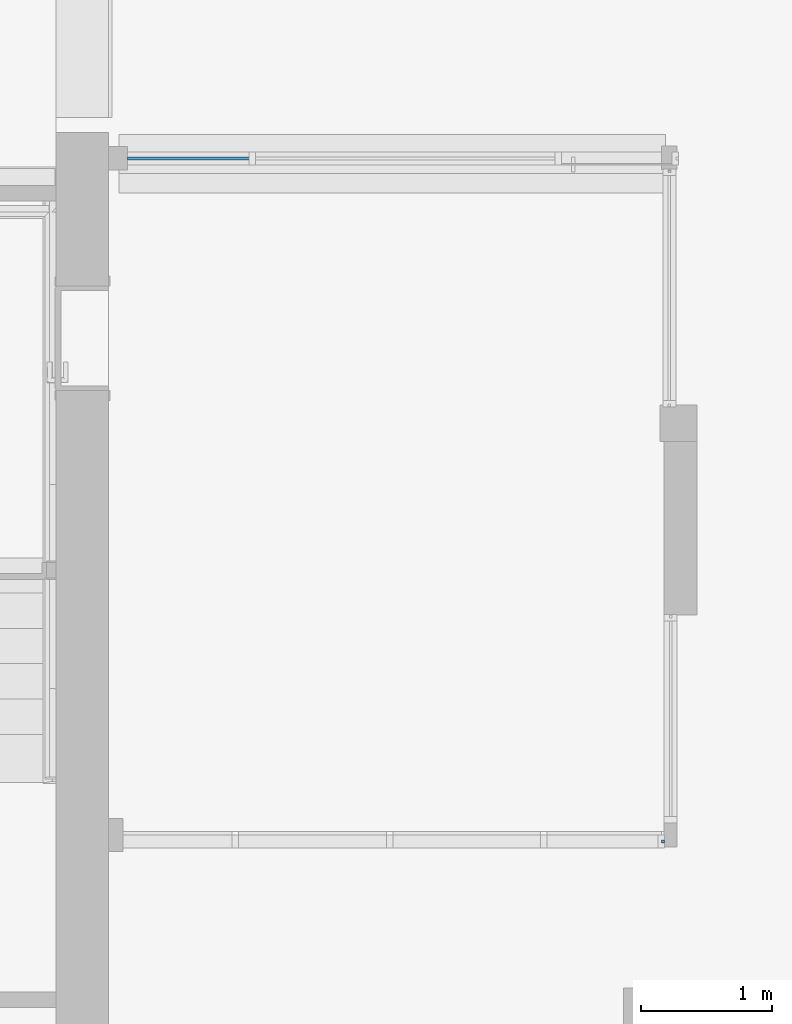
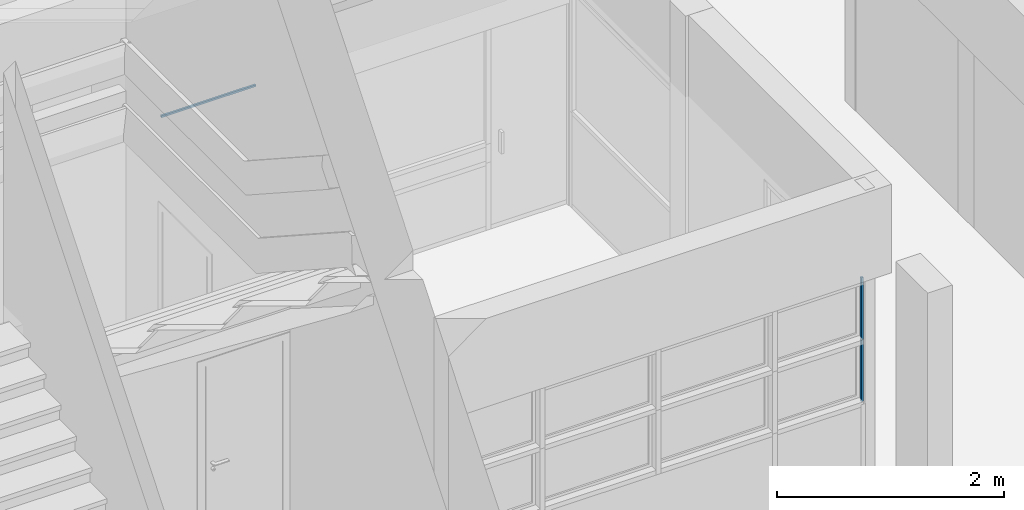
# One storey, part 47 of 117: 3 plates, 2 elements without a shape of their own.
"""IFC4 building model written with IfcOpenShell, lengths in metres."""

import ifcopenshell
import ifcopenshell.guid

model = None  # the IFC model being written
_history = None  # IfcOwnerHistory: only IFC2X3 demands one
_inside = {}  # id of a spatial element -> (the spatial element, [elements in it])
_under = {}  # id of a project, library or spatial element -> (it, [spatial elements below it])
_declared = {}  # id of a project -> (the project, [libraries it declares])
_typed = {}  # id of a type object -> (the type object, [elements of that type])
_made_of = {}  # id of a material, layer set ... -> (it, [elements and type objects made of it])


def new_model(schema):
    """Start an empty IFC model of exactly this schema.

    Asked for "IFC4X3", IfcOpenShell would pick the latest addendum, in which some entities
    have other attributes; the version numbers below select the first issue.
    IFC2X3 requires an IfcOwnerHistory on every rooted entity: one is made here for all.
    """
    global model, _history
    if schema == "IFC4X3":
        model = ifcopenshell.file(schema_version=(4, 3, 0, 0))
    else:
        model = ifcopenshell.file(schema=schema)
    _inside.clear()
    _under.clear()
    _declared.clear()
    _typed.clear()
    _made_of.clear()
    _history = None
    if model.schema == "IFC2X3":
        org = make("IfcOrganization", Name="unknown")
        user = make(
            "IfcPersonAndOrganization",
            ThePerson=make("IfcPerson", FamilyName="unknown"),
            TheOrganization=org,
        )
        app = make(
            "IfcApplication",
            ApplicationDeveloper=org,
            Version="unknown",
            ApplicationFullName="unknown",
            ApplicationIdentifier="unknown",
        )
        _history = make(
            "IfcOwnerHistory",
            OwningUser=user,
            OwningApplication=app,
            ChangeAction="ADDED",
            CreationDate=0,
        )
    return model


def make(cls, **values):
    """One entity of the class cls with the attributes given. An attribute that is None is left unset."""
    return model.create_entity(
        cls, **{name: value for name, value in values.items() if value is not None}
    )


def entity(cls, *values):
    """Any entity or typed value of the class cls, its attributes in the order of the schema. None: left unset."""
    e = model.create_entity(cls)
    for i, value in enumerate(values):
        if value is not None:
            e[i] = value
    return e


def rooted(cls, **values):
    """An entity with a GlobalId (a new one), such as an element, a storey or a relation."""
    return make(cls, GlobalId=ifcopenshell.guid.new(), OwnerHistory=_history, **values)


def si_unit(unit_type, name, prefix=None):
    """IfcSIUnit, for example si_unit("LENGTHUNIT", "METRE", prefix="MILLI")."""
    return make("IfcSIUnit", UnitType=unit_type, Prefix=prefix, Name=name)


def converted_unit(unit_type, name, factor, base, dimensions=None, offset=None):
    """IfcConversionBasedUnit, such as the inch: factor (a typed value) times the base unit."""
    return make(
        "IfcConversionBasedUnit"
        if offset is None
        else "IfcConversionBasedUnitWithOffset",
        ConversionOffset=offset,
        Dimensions=None
        if dimensions is None
        else entity("IfcDimensionalExponents", *dimensions),
        UnitType=unit_type,
        Name=name,
        ConversionFactor=make(
            "IfcMeasureWithUnit", ValueComponent=factor, UnitComponent=base
        ),
    )


def derived_unit(unit_type, elements):
    """IfcDerivedUnit: a product of units, each with its exponent."""
    return make(
        "IfcDerivedUnit",
        Elements=[
            make("IfcDerivedUnitElement", Unit=unit, Exponent=power)
            for unit, power in elements
        ],
        UnitType=unit_type,
    )


def assignment(units):
    """IfcUnitAssignment: the units of a project."""
    return None if units is None else make("IfcUnitAssignment", Units=units)


def point(xyz):
    """IfcCartesianPoint."""
    return None if xyz is None else make("IfcCartesianPoint", Coordinates=xyz)


def direction(xyz):
    """IfcDirection."""
    return None if xyz is None else make("IfcDirection", DirectionRatios=xyz)


def frame(location, z_axis=None, x_axis=None):
    """IfcAxis2Placement3D, a coordinate frame: its origin and axes. An axis left out is left unset."""
    return make(
        "IfcAxis2Placement3D",
        Location=point(location),
        Axis=direction(z_axis),
        RefDirection=direction(x_axis),
    )


def origin():
    """The frame at (0, 0, 0) with its axes left unset."""
    return frame((0.0, 0.0, 0.0))


def place(relative_to, where):
    """IfcLocalPlacement: puts the frame where relative to a parent placement (None: the world)."""
    return make(
        "IfcLocalPlacement", PlacementRelTo=relative_to, RelativePlacement=where
    )


def context(
    kind, dimensions, precision=None, world=None, true_north=None, identifier=None
):
    """IfcGeometricRepresentationContext, for example the 3D "Model" context."""
    return make(
        "IfcGeometricRepresentationContext",
        ContextIdentifier=identifier,
        ContextType=kind,
        CoordinateSpaceDimension=dimensions,
        Precision=precision,
        WorldCoordinateSystem=world,
        TrueNorth=true_north,
    )


def subcontext(parent, identifier, kind, view, scale=None):
    """IfcGeometricRepresentationSubContext, for example "Body" below "Model"."""
    return make(
        "IfcGeometricRepresentationSubContext",
        ContextIdentifier=identifier,
        ContextType=kind,
        ParentContext=parent,
        TargetScale=scale,
        TargetView=view,
    )


def project(units=None, contexts=None):
    """IfcProject with its units and contexts."""
    return rooted(
        "IfcProject",
        Name="project",
        RepresentationContexts=contexts,
        UnitsInContext=assignment(units),
    )


def spatial(cls, under=None, at=None, **own):
    """A site, building, storey or space (cls), placed at a placement, below another one or the project."""
    s = rooted(cls, ObjectPlacement=at, **own)
    if under is not None:
        _under.setdefault(under.id(), (under, []))[1].append(s)
    return s


def point_list(points):
    """IfcCartesianPointList2D or 3D."""
    cls = (
        "IfcCartesianPointList2D" if len(points[0]) == 2 else "IfcCartesianPointList3D"
    )
    return make(cls, CoordList=points)


def indexed_curve(points, segments=None, self_intersect=None):
    """IfcIndexedPolyCurve: lines and arcs through numbered points (the first is 1)."""
    return make(
        "IfcIndexedPolyCurve",
        Points=point_list(points),
        Segments=segments,
        SelfIntersect=self_intersect,
    )


def outline(outer, holes=None, kind="AREA"):
    """IfcArbitraryClosedProfileDef: a profile drawn as a closed curve; with holes, ...WithVoids."""
    if holes is None:
        return make("IfcArbitraryClosedProfileDef", ProfileType=kind, OuterCurve=outer)
    return make(
        "IfcArbitraryProfileDefWithVoids",
        ProfileType=kind,
        OuterCurve=outer,
        InnerCurves=holes,
    )


def extrude(swept, where, along, depth):
    """IfcExtrudedAreaSolid: the profile swept, set in the frame where, extruded along a direction by depth."""
    return make(
        "IfcExtrudedAreaSolid",
        SweptArea=swept,
        Position=where,
        ExtrudedDirection=direction(along),
        Depth=depth,
    )


def shape(context_of_items, identifier, shape_type, items):
    """IfcShapeRepresentation: the items that make up one representation, for example the "Body"."""
    return make(
        "IfcShapeRepresentation",
        ContextOfItems=context_of_items,
        RepresentationIdentifier=identifier,
        RepresentationType=shape_type,
        Items=items,
    )


def source(mapping_origin, context_of_items, identifier, shape_type, items):
    """IfcRepresentationMap: a shape defined once, which mapped items show again and again."""
    return make(
        "IfcRepresentationMap",
        MappingOrigin=mapping_origin,
        MappedRepresentation=shape(context_of_items, identifier, shape_type, items),
    )


def transform(
    local_origin,
    x_axis=None,
    y_axis=None,
    z_axis=None,
    scale=None,
    scale2=None,
    scale3=None,
    uniform=True,
):
    """IfcCartesianTransformationOperator3D, or its non-uniform kind. x_axis, y_axis, z_axis: its Axis1, 2, 3."""
    if uniform:
        return make(
            "IfcCartesianTransformationOperator3D",
            Axis1=direction(x_axis),
            Axis2=direction(y_axis),
            LocalOrigin=point(local_origin),
            Scale=scale,
            Axis3=direction(z_axis),
        )
    return make(
        "IfcCartesianTransformationOperator3DnonUniform",
        Axis1=direction(x_axis),
        Axis2=direction(y_axis),
        LocalOrigin=point(local_origin),
        Scale=scale,
        Axis3=direction(z_axis),
        Scale2=scale2,
        Scale3=scale3,
    )


def mapped(mapping_source, mapping_target):
    """IfcMappedItem: shows the shape of a source again, moved by a transform."""
    return make(
        "IfcMappedItem", MappingSource=mapping_source, MappingTarget=mapping_target
    )


def material(Name=None, Category=None):
    """IfcMaterial."""
    return make("IfcMaterial", Name=Name, Category=Category)


def made_of(thing, what):
    """Note that an element or type object is made of a material, layer set ...; save() writes the relation."""
    if what is not None:
        _made_of.setdefault(what.id(), (what, []))[1].append(thing)
    return thing


def type_object(cls, material=None, **own):
    """A type object (cls), such as IfcWallType, which elements share."""
    return made_of(rooted(cls, **own), material)


def type_shapes(of_type, sources):
    """Give a type object the sources (RepresentationMaps) that its elements show as mapped items."""
    of_type.RepresentationMaps = sources


def element(
    cls,
    number,
    at=None,
    inside=None,
    cuts=None,
    type_object=None,
    material=None,
    context=None,
    identifier="Body",
    shape_type=None,
    held_by="IfcProductDefinitionShape",
    body=None,
    shapes=None,
    **own,
):
    """One element of the class cls, such as IfcWall. Its Tag is "e" and its number.

    at: its placement. inside: the storey or other place that contains it. cuts: it is an
    opening in that element (IfcRelVoidsElement). A single representation is given by context,
    identifier, shape_type and body (its items); several are given by shapes. held_by: the class
    of the entity that holds the representations. save() writes the other relations.
    """
    e = rooted(cls, Tag="e%d" % number, ObjectPlacement=at, **own)
    if body is not None:
        shapes = [shape(context, identifier, shape_type, body)]
    if shapes is not None:
        e.Representation = make(held_by, Representations=shapes)
    if inside is not None:
        _inside.setdefault(inside.id(), (inside, []))[1].append(e)
    if cuts is not None:
        rooted(
            "IfcRelVoidsElement", RelatingBuildingElement=cuts, RelatedOpeningElement=e
        )
    if type_object is not None:
        _typed.setdefault(type_object.id(), (type_object, []))[1].append(e)
    return made_of(e, material)


def aggregate(whole, parts):
    """IfcRelAggregates: a whole, such as a stair, and the parts it consists of."""
    return rooted("IfcRelAggregates", RelatingObject=whole, RelatedObjects=parts)


def save(model, path):
    """Write the relations noted so far, then the file.

    IfcRelAggregates (storeys below a building ...), IfcRelContainedInSpatialStructure (elements
    in a storey), IfcRelDefinesByType, IfcRelAssociatesMaterial and IfcRelDeclares: one each for
    every whole, place, type object, material and project.
    """
    for whole, parts in _under.values():
        aggregate(whole, parts)
    for where, things in _inside.values():
        rooted(
            "IfcRelContainedInSpatialStructure",
            RelatedElements=things,
            RelatingStructure=where,
        )
    for kind, things in _typed.values():
        rooted("IfcRelDefinesByType", RelatedObjects=things, RelatingType=kind)
    for what, things in _made_of.values():
        rooted("IfcRelAssociatesMaterial", RelatedObjects=things, RelatingMaterial=what)
    for by, libraries in _declared.values():
        rooted("IfcRelDeclares", RelatingContext=by, RelatedDefinitions=libraries)
    model.write(path)


model = new_model("IFC4")

# Units and contexts
model_context = context("Model", 3, precision=1e-05, world=origin(), true_north=direction((6.123031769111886e-17, 1.0)))
body_context = subcontext(model_context, "Body", "Model", "MODEL_VIEW")
ifc_project = project(units=[si_unit("LENGTHUNIT", "METRE"), si_unit("AREAUNIT", "SQUARE_METRE"), si_unit("VOLUMEUNIT", "CUBIC_METRE"), converted_unit("PLANEANGLEUNIT", "DEGREE", entity("IfcRatioMeasure", 0.017453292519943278), si_unit("PLANEANGLEUNIT", "RADIAN"), dimensions=[0, 0, 0, 0, 0, 0, 0]), si_unit("MASSUNIT", "GRAM", prefix="KILO"), derived_unit("MASSDENSITYUNIT", [(si_unit("MASSUNIT", "GRAM", prefix="KILO"), 1), (si_unit("LENGTHUNIT", "METRE"), -3)]), derived_unit("MOMENTOFINERTIAUNIT", [(si_unit("LENGTHUNIT", "METRE"), 4)]), si_unit("TIMEUNIT", "SECOND"), si_unit("FREQUENCYUNIT", "HERTZ"), si_unit("THERMODYNAMICTEMPERATUREUNIT", "DEGREE_CELSIUS"), derived_unit("THERMALTRANSMITTANCEUNIT", [(si_unit("MASSUNIT", "GRAM", prefix="KILO"), 1), (si_unit("THERMODYNAMICTEMPERATUREUNIT", "KELVIN"), -1), (si_unit("TIMEUNIT", "SECOND"), -3)]), derived_unit("VOLUMETRICFLOWRATEUNIT", [(si_unit("LENGTHUNIT", "METRE"), 3), (si_unit("TIMEUNIT", "SECOND"), -1)]), derived_unit("MASSFLOWRATEUNIT", [(si_unit("MASSUNIT", "GRAM", prefix="KILO"), 1), (si_unit("TIMEUNIT", "SECOND"), -1)]), derived_unit("ROTATIONALFREQUENCYUNIT", [(si_unit("TIMEUNIT", "SECOND"), -1)]), si_unit("ELECTRICCURRENTUNIT", "AMPERE"), si_unit("ELECTRICVOLTAGEUNIT", "VOLT"), si_unit("POWERUNIT", "WATT"), si_unit("FORCEUNIT", "NEWTON", prefix="KILO"), si_unit("ILLUMINANCEUNIT", "LUX"), si_unit("LUMINOUSFLUXUNIT", "LUMEN"), si_unit("LUMINOUSINTENSITYUNIT", "CANDELA"), derived_unit("USERDEFINED", [(si_unit("MASSUNIT", "GRAM", prefix="KILO"), -1), (si_unit("LENGTHUNIT", "METRE"), -2), (si_unit("TIMEUNIT", "SECOND"), 3), (si_unit("LUMINOUSFLUXUNIT", "LUMEN"), 1)]), derived_unit("SOUNDPOWERUNIT", [(si_unit("MASSUNIT", "GRAM", prefix="KILO"), 1), (si_unit("LENGTHUNIT", "METRE"), 2), (si_unit("TIMEUNIT", "SECOND"), -3)]), derived_unit("SOUNDPRESSUREUNIT", [(si_unit("MASSUNIT", "GRAM", prefix="KILO"), 1), (si_unit("LENGTHUNIT", "METRE"), -1), (si_unit("TIMEUNIT", "SECOND"), -2)]), derived_unit("LINEARVELOCITYUNIT", [(si_unit("LENGTHUNIT", "METRE"), 1), (si_unit("TIMEUNIT", "SECOND"), -1)]), si_unit("PRESSUREUNIT", "PASCAL"), derived_unit("USERDEFINED", [(si_unit("LENGTHUNIT", "METRE"), -2), (si_unit("MASSUNIT", "GRAM", prefix="KILO"), 1), (si_unit("TIMEUNIT", "SECOND"), -2)]), derived_unit("LINEARFORCEUNIT", [(si_unit("MASSUNIT", "GRAM", prefix="KILO"), 1), (si_unit("LENGTHUNIT", "METRE"), 1), (si_unit("TIMEUNIT", "SECOND"), -2), (si_unit("LENGTHUNIT", "METRE"), -1)]), derived_unit("PLANARFORCEUNIT", [(si_unit("MASSUNIT", "GRAM", prefix="KILO"), 1), (si_unit("LENGTHUNIT", "METRE"), 1), (si_unit("TIMEUNIT", "SECOND"), -2), (si_unit("LENGTHUNIT", "METRE"), -2)])], contexts=[model_context])

# Site, building, storey
site_placement = place(None, origin())
site = spatial("IfcSite", under=ifc_project, at=site_placement, Name="Superficie", CompositionType="ELEMENT")
building_placement = place(site_placement, origin())
building = spatial("IfcBuilding", under=site, at=building_placement, CompositionType="ELEMENT")
storey_placement = place(building_placement, origin())
storey = spatial("IfcBuildingStorey", under=building, at=storey_placement, Name="Nivel 0", CompositionType="ELEMENT", Elevation=0.0)

# Curtain wall, plates
curtain_wall_type = type_object("IfcCurtainWallType", Name="Muro cortina:Muro cortina - simple", PredefinedType="NOTDEFINED")
curtain_wall_1_placement = place(storey_placement, origin())
curtain_wall_1 = element("IfcCurtainWall", 1, at=curtain_wall_1_placement, inside=storey, type_object=curtain_wall_type, Name="Muro cortina:Muro cortina - simple", ObjectType="Muro cortina:Muro cortina - simple", PredefinedType="NOTDEFINED")
ifc_material = material(Name="Cristal", Category="Vidrio")
plate_type_1 = type_object("IfcPlateType", Name="Panel de sistema:Acristalado", PredefinedType="CURTAIN_PANEL", material=ifc_material)
shared_shape_1 = source(origin(), body_context, "Body", "SweptSolid", [
    extrude(outline(indexed_curve([(-0.01, -0.010902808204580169), (0.01, -0.010902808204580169), (0.01, 0.010902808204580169), (-0.01, 0.010902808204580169), (-0.01, -0.010902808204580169)], self_intersect=False)), frame((0.0, 0.0, 0.0), z_axis=(0.0, 0.0, 1.0), x_axis=(0.0, 1.0, 0.0)), (0.0, 0.0, 1.0), 0.6649999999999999),
])
type_shapes(plate_type_1, [shared_shape_1])
plate_1_placement = place(curtain_wall_1_placement, frame((-18.40229817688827, -1.65417071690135, 1.0200000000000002), z_axis=(0.0, 0.0, 1.0), x_axis=(-1.0, 0.0, 0.0)))
plate_1 = element("IfcPlate", 2, at=plate_1_placement, type_object=plate_type_1, material=ifc_material, Name="Panel de sistema:Acristalado", ObjectType="Panel de sistema:Acristalado", PredefinedType="CURTAIN_PANEL", context=body_context, shape_type="MappedRepresentation", body=[
    mapped(shared_shape_1, transform((0.0, 0.0, 0.0), scale=1.0)),
])
plate_2_placement = place(curtain_wall_1_placement, frame((-18.40229817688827, -1.65417071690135, 1.685), z_axis=(0.0, 0.0, 1.0), x_axis=(-1.0, 0.0, 0.0)))
plate_2 = element("IfcPlate", 3, at=plate_2_placement, type_object=plate_type_1, material=ifc_material, Name="Panel de sistema:Acristalado", ObjectType="Panel de sistema:Acristalado", PredefinedType="CURTAIN_PANEL", context=body_context, shape_type="MappedRepresentation", body=[
    mapped(shared_shape_1, transform((0.0, 0.0, 0.0), scale=1.0)),
])
aggregate(curtain_wall_1, [plate_1, plate_2])

# Curtain wall, plate
curtain_wall_2_placement = place(storey_placement, origin())
curtain_wall_2 = element("IfcCurtainWall", 4, at=curtain_wall_2_placement, inside=storey, type_object=curtain_wall_type, Name="Muro cortina:Muro cortina - simple", ObjectType="Muro cortina:Muro cortina - simple", PredefinedType="NOTDEFINED")
plate_type_2 = type_object("IfcPlateType", Name="Panel de sistema:Acristalado", PredefinedType="CURTAIN_PANEL", material=ifc_material)
shared_shape_2 = source(origin(), body_context, "Body", "SweptSolid", [
    extrude(outline(indexed_curve([(-0.01, -0.47764593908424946), (0.01, -0.47764593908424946), (0.01, 0.47764593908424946), (-0.01, 0.47764593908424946), (-0.01, -0.47764593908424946)], self_intersect=False)), frame((0.0, 0.0, 0.0), z_axis=(0.0, 0.0, 1.0), x_axis=(0.0, 1.0, 0.0)), (0.0, 0.0, 1.0), 0.020000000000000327),
])
type_shapes(plate_type_2, [shared_shape_2])
plate_3_placement = place(curtain_wall_2_placement, frame((-22.02084692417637, 3.5708292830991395, 2.3299999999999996), z_axis=(0.0, 0.0, 1.0), x_axis=(-1.0, 0.0, 0.0)))
plate_3 = element("IfcPlate", 5, at=plate_3_placement, type_object=plate_type_2, material=ifc_material, Name="Panel de sistema:Acristalado", ObjectType="Panel de sistema:Acristalado", PredefinedType="CURTAIN_PANEL", context=body_context, shape_type="MappedRepresentation", body=[
    mapped(shared_shape_2, transform((0.0, 0.0, 0.0), scale=1.0)),
])
aggregate(curtain_wall_2, [plate_3])

save(model, "model.ifc")
